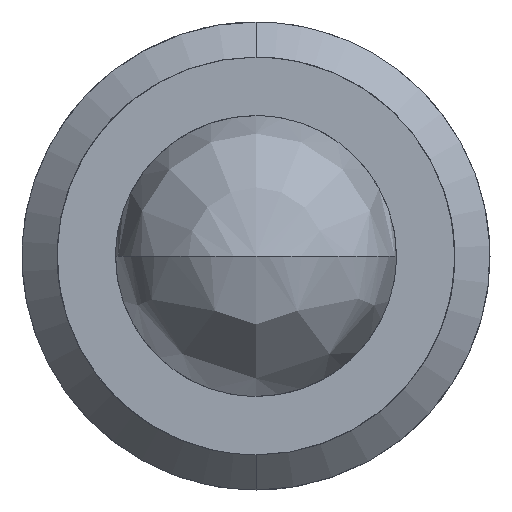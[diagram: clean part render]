
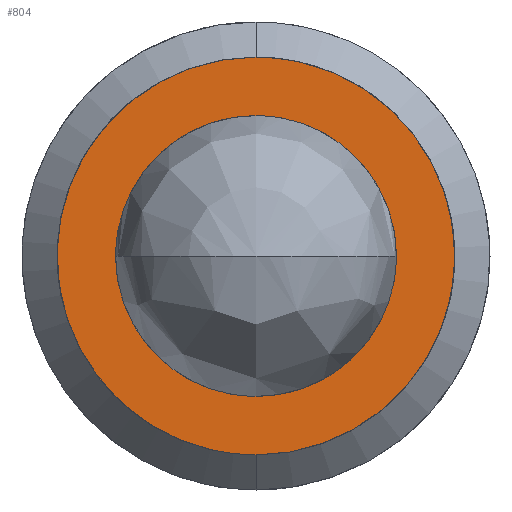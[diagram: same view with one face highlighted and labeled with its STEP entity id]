
A CAD part, left-side view. The second image highlights one B-rep face of the part: STEP entity #804.
In plain terms, the highlighted free-form (B-spline) face has degree [1, 1] with [2, 2] control points.
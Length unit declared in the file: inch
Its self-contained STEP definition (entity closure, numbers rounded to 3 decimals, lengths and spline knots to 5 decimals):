
#28 = CARTESIAN_POINT ( 'NONE',  ( 0.33, 0.00318, 0.012 ) ) ;
#30 = EDGE_CURVE ( 'NONE', #614, #822, #115, .T. ) ;
#39 = CARTESIAN_POINT ( 'NONE',  ( 0.33, -0.00623, 0.01074 ) ) ;
#40 = CARTESIAN_POINT ( 'NONE',  ( 0.33, 0., 0.017 ) ) ;
#49 = CARTESIAN_POINT ( 'NONE',  ( 0.33, 0.0172, 0.0172 ) ) ;
#50 = CARTESIAN_POINT ( 'NONE',  ( 0.33, -0.00623, -0.01074 ) ) ;
#54 = CARTESIAN_POINT ( 'NONE',  ( 0.33, -0.017, -0.00451 ) ) ;
#56 = CARTESIAN_POINT ( 'NONE',  ( 0.33, 0.00451, -0.017 ) ) ;
#70 = EDGE_LOOP ( 'NONE', ( #730, #566 ) ) ;
#77 = CARTESIAN_POINT ( 'NONE',  ( 0.33, 0.012, -0.00318 ) ) ;
#105 = CARTESIAN_POINT ( 'NONE',  ( 0.33, -0.00883, 0.01521 ) ) ;
#108 = CARTESIAN_POINT ( 'NONE',  ( 0.33, -0.01074, -0.00623 ) ) ;
#115 = B_SPLINE_CURVE_WITH_KNOTS ( 'NONE', 3,
 ( #331, #583, #203, #653, #77, #335, #287, #226, #28, #539 ),
 .UNSPECIFIED., .F., .F.,
 ( 4, 2, 2, 2, 4 ),
 ( 0., 0.7854, 1.5708, 2.35619, 3.14159 ),
 .UNSPECIFIED. ) ;
#117 = CARTESIAN_POINT ( 'NONE',  ( 0.33, 0.017, 0.00451 ) ) ;
#119 = CARTESIAN_POINT ( 'NONE',  ( 0.33, -0.01521, -0.00883 ) ) ;
#165 = VERTEX_POINT ( 'NONE', #40 ) ;
#177 = CARTESIAN_POINT ( 'NONE',  ( 0.33, 0., 0.017 ) ) ;
#180 = CARTESIAN_POINT ( 'NONE',  ( 0.33, -0.012, 0.00318 ) ) ;
#203 = CARTESIAN_POINT ( 'NONE',  ( 0.33, 0.00623, -0.01074 ) ) ;
#226 = CARTESIAN_POINT ( 'NONE',  ( 0.33, 0.00623, 0.01074 ) ) ;
#229 = CARTESIAN_POINT ( 'NONE',  ( 0.33, -0.00451, 0.017 ) ) ;
#233 = FACE_OUTER_BOUND ( 'NONE', #656, .T. ) ;
#243 = CARTESIAN_POINT ( 'NONE',  ( 0.33, -0.00318, 0.012 ) ) ;
#254 = B_SPLINE_CURVE_WITH_KNOTS ( 'NONE', 3,
 ( #360, #243, #39, #751, #180, #695, #108, #50, #494, #364 ),
 .UNSPECIFIED., .F., .F.,
 ( 4, 2, 2, 2, 4 ),
 ( 0., 0.7854, 1.5708, 2.35619, 3.14159 ),
 .UNSPECIFIED. ) ;
#259 = CARTESIAN_POINT ( 'NONE',  ( 0.33, 0., -0.017 ) ) ;
#260 = CARTESIAN_POINT ( 'NONE',  ( 0.33, 0., -0.012 ) ) ;
#269 = CARTESIAN_POINT ( 'NONE',  ( 0.33, 0.01521, 0.00883 ) ) ;
#287 = CARTESIAN_POINT ( 'NONE',  ( 0.33, 0.01074, 0.00623 ) ) ;
#292 = CARTESIAN_POINT ( 'NONE',  ( 0.33, 0., 0.012 ) ) ;
#293 = CARTESIAN_POINT ( 'NONE',  ( 0.33, 0., -0.017 ) ) ;
#305 = CARTESIAN_POINT ( 'NONE',  ( 0.33, -0.00883, -0.01521 ) ) ;
#331 = CARTESIAN_POINT ( 'NONE',  ( 0.33, 0., -0.012 ) ) ;
#335 = CARTESIAN_POINT ( 'NONE',  ( 0.33, 0.012, 0.00318 ) ) ;
#351 = B_SPLINE_SURFACE_WITH_KNOTS ( 'NONE', 1, 1, ( 
 ( #625, #492 ),
 ( #608, #49 ) ),
 .UNSPECIFIED., .F., .F., .F.,
 ( 2, 2 ),
 ( 2, 2 ),
 ( 0., 1. ),
 ( 0., 1. ),
 .UNSPECIFIED. ) ;
#360 = CARTESIAN_POINT ( 'NONE',  ( 0.33, 0., 0.012 ) ) ;
#364 = CARTESIAN_POINT ( 'NONE',  ( 0.33, 0., -0.012 ) ) ;
#381 = VERTEX_POINT ( 'NONE', #259 ) ;
#421 = EDGE_CURVE ( 'NONE', #165, #381, #814, .T. ) ;
#422 = CARTESIAN_POINT ( 'NONE',  ( 0.33, -0.00451, -0.017 ) ) ;
#425 = FACE_BOUND ( 'NONE', #70, .T. ) ;
#438 = B_SPLINE_CURVE_WITH_KNOTS ( 'NONE', 3,
 ( #293, #422, #305, #119, #54, #501, #675, #105, #229, #490 ),
 .UNSPECIFIED., .F., .F.,
 ( 4, 2, 2, 2, 4 ),
 ( 0., 0.7854, 1.5708, 2.35619, 3.14159 ),
 .UNSPECIFIED. ) ;
#459 = CARTESIAN_POINT ( 'NONE',  ( 0.33, 0.01521, -0.00883 ) ) ;
#463 = CARTESIAN_POINT ( 'NONE',  ( 0.33, 0.017, -0.00451 ) ) ;
#490 = CARTESIAN_POINT ( 'NONE',  ( 0.33, 0., 0.017 ) ) ;
#492 = CARTESIAN_POINT ( 'NONE',  ( 0.33, 0.0172, -0.0172 ) ) ;
#494 = CARTESIAN_POINT ( 'NONE',  ( 0.33, -0.00318, -0.012 ) ) ;
#501 = CARTESIAN_POINT ( 'NONE',  ( 0.33, -0.017, 0.00451 ) ) ;
#528 = ORIENTED_EDGE ( 'NONE', *, *, #421, .T. ) ;
#539 = CARTESIAN_POINT ( 'NONE',  ( 0.33, 0., 0.012 ) ) ;
#543 = EDGE_CURVE ( 'NONE', #822, #614, #254, .T. ) ;
#557 = CARTESIAN_POINT ( 'NONE',  ( 0.33, 0., -0.017 ) ) ;
#565 = CARTESIAN_POINT ( 'NONE',  ( 0.33, 0.00451, 0.017 ) ) ;
#566 = ORIENTED_EDGE ( 'NONE', *, *, #543, .T. ) ;
#578 = EDGE_CURVE ( 'NONE', #381, #165, #438, .T. ) ;
#581 = ORIENTED_EDGE ( 'NONE', *, *, #578, .T. ) ;
#583 = CARTESIAN_POINT ( 'NONE',  ( 0.33, 0.00318, -0.012 ) ) ;
#608 = CARTESIAN_POINT ( 'NONE',  ( 0.33, -0.0172, 0.0172 ) ) ;
#614 = VERTEX_POINT ( 'NONE', #260 ) ;
#625 = CARTESIAN_POINT ( 'NONE',  ( 0.33, -0.0172, -0.0172 ) ) ;
#653 = CARTESIAN_POINT ( 'NONE',  ( 0.33, 0.01074, -0.00623 ) ) ;
#656 = EDGE_LOOP ( 'NONE', ( #528, #581 ) ) ;
#675 = CARTESIAN_POINT ( 'NONE',  ( 0.33, -0.01521, 0.00883 ) ) ;
#692 = CARTESIAN_POINT ( 'NONE',  ( 0.33, 0.00883, -0.01521 ) ) ;
#695 = CARTESIAN_POINT ( 'NONE',  ( 0.33, -0.012, -0.00318 ) ) ;
#730 = ORIENTED_EDGE ( 'NONE', *, *, #30, .T. ) ;
#751 = CARTESIAN_POINT ( 'NONE',  ( 0.33, -0.01074, 0.00623 ) ) ;
#782 = CARTESIAN_POINT ( 'NONE',  ( 0.33, 0.00883, 0.01521 ) ) ;
#804 = ADVANCED_FACE ( 'NONE', ( #425, #233 ), #351, .T. ) ;
#814 = B_SPLINE_CURVE_WITH_KNOTS ( 'NONE', 3,
 ( #177, #565, #782, #269, #117, #463, #459, #692, #56, #557 ),
 .UNSPECIFIED., .F., .F.,
 ( 4, 2, 2, 2, 4 ),
 ( 0., 0.7854, 1.5708, 2.35619, 3.14159 ),
 .UNSPECIFIED. ) ;
#822 = VERTEX_POINT ( 'NONE', #292 ) ;
